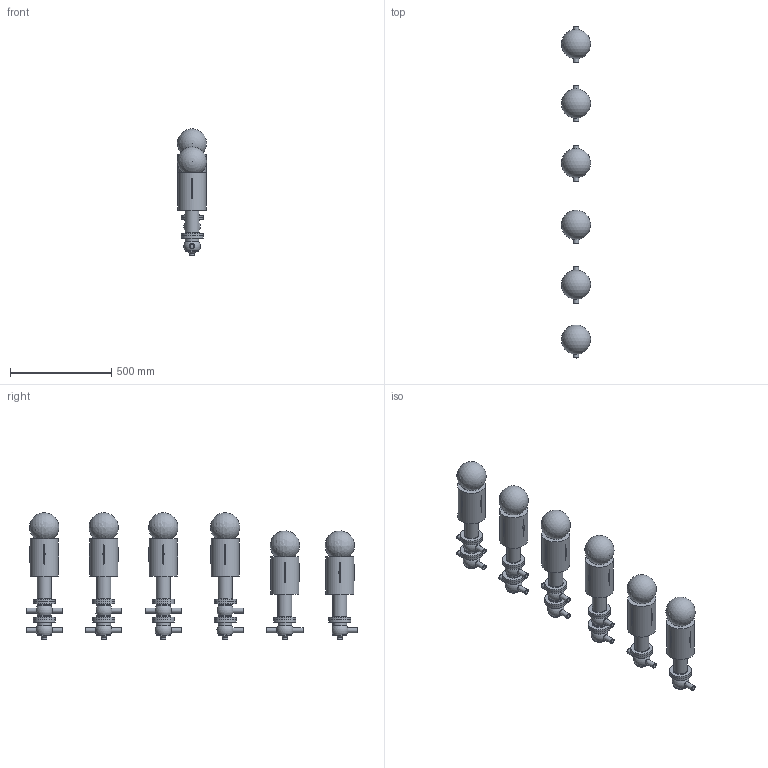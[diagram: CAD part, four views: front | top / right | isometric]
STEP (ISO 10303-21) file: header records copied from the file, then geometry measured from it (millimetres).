
FILE_DESCRIPTION(/* description */ (''),/* implementation_level */ '2;1');
FILE_NAME(/* name */ 'C:\Users\marz-m\Desktop\PDF\BBZQ 3D STEP\BBZQ-DN254-CIL.134.stp',/* time_stamp */ '2018-04-13T14:25:16+02:00',/* author */ ('marz-m'),/* organization */ (''),/* preprocessor_version */ 'ST-DEVELOPER v17',/* originating_system */ 'Autodesk Inventor 2018',/* authorisation */ '');
FILE_SCHEMA (('AUTOMOTIVE_DESIGN { 1 0 10303 214 3 1 1 }'));
Length unit declared in the file: millimetre
Products named in the file (8): BBZQ-CIL.134-DN254; COR-INF-L-BBZQ-DN025(28X3)-SALD; COR-INF-T-BBZQ-DN025(28X2.5)-SALD; assemblaggio dn40 per cil 108-156; CIL134; SAGOMA-GIOTTO-; CORPO-SUP-BBZQ-L-DN254-SALD; CORPO-SUP-BBZQ-T-DN254-SALD
Assembly tree (28 placements, depth 2):
  BBZQ-CIL.134-DN254
    COR-INF-L-BBZQ-DN025(28X3)-SALD  x3
    COR-INF-T-BBZQ-DN025(28X2.5)-SALD  x3
    assemblaggio dn40 per cil 108-156  x6
    CIL134  x6
    SAGOMA-GIOTTO-  x6
    CORPO-SUP-BBZQ-L-DN254-SALD  x2
    CORPO-SUP-BBZQ-T-DN254-SALD  x2
Bounding box: 144.75 x 1643.08 x 625.47 mm (x, y, z)
Volume: 34160879.9 mm3; surface area: 1943653.6 mm2
Topology: 28 solids, 28 shells, 422 faces, 1038 edges, 728 vertices
Faces by surface type: plane 157, cylinder 106, torus 74, cone 54, sphere 31
Full cylindrical faces by diameter (mm): 20 x12, 20.4 x21, 25.4 x21, 68 x20, 69 x6, 109 x20, 139 x6
Entity records: 4061 total; most frequent: CARTESIAN_POINT 878, DIRECTION 701, ORIENTED_EDGE 526, AXIS2_PLACEMENT_3D 331, EDGE_CURVE 263, VERTEX_POINT 188, CIRCLE 172, EDGE_LOOP 145
